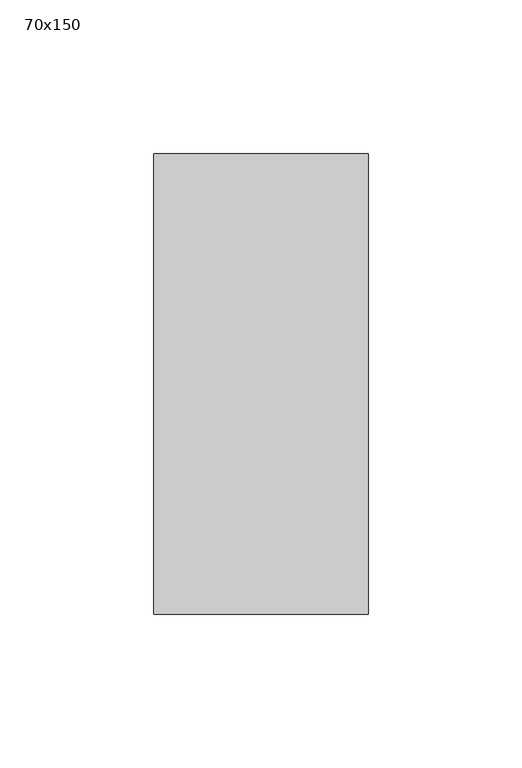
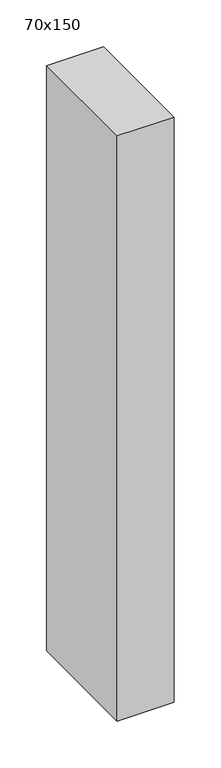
"""IFC4 building model written with IfcOpenShell, lengths in millimetres: member geometry, 長方形のマリオン : 70x150."""

from ifc_helpers import new_model, si_unit, frame, origin, place, context, project, spatial, polyline, outline, extrude, source, transform, mapped, element, save


def member_70x150_e0eddb57(model_context):
    return source(origin(), model_context, "Body", "SweptSolid", [
        extrude(outline(polyline([(35.0, 75.0), (35.0, -75.0), (-35.0, -75.0), (-35.0, 75.0), (35.0, 75.0)])), frame((0.0, 0.0, -760.0), z_axis=(0.0, 0.0, 1.0), x_axis=(1.0, 0.0, 0.0)), (0.0, 0.0, 1.0), 760.0),
    ])


if __name__ == "__main__":
    model = new_model("IFC4")
    model_context = context("Model", 3, world=origin())
    ifc_project = project(units=[si_unit("LENGTHUNIT", "METRE", prefix="MILLI")], contexts=[model_context])
    site = spatial("IfcSite", under=ifc_project)
    building = spatial("IfcBuilding", under=site)
    placement = place(None, origin())
    member_70x150_shape = member_70x150_e0eddb57(model_context)
    element("IfcMember", 1, ObjectType="長方形のマリオン : 70x150", at=placement, inside=building, context=model_context, shape_type="MappedRepresentation", body=[
        mapped(member_70x150_shape, transform((0.0, 0.0, 0.0), x_axis=(1.0, 0.0, 0.0), y_axis=(0.0, 1.0, 0.0), z_axis=(0.0, 0.0, 1.0))),
    ])
    save(model, "model.ifc")
